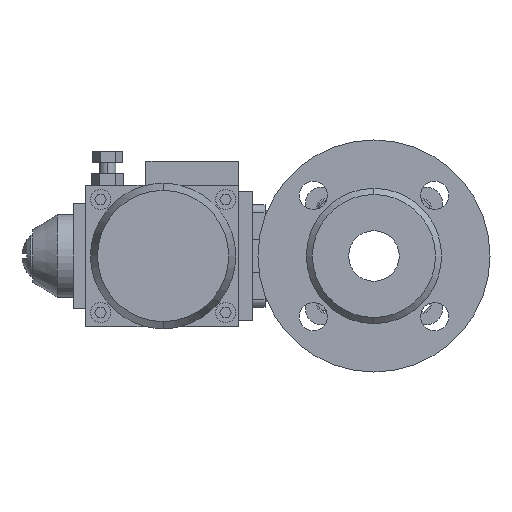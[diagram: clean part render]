
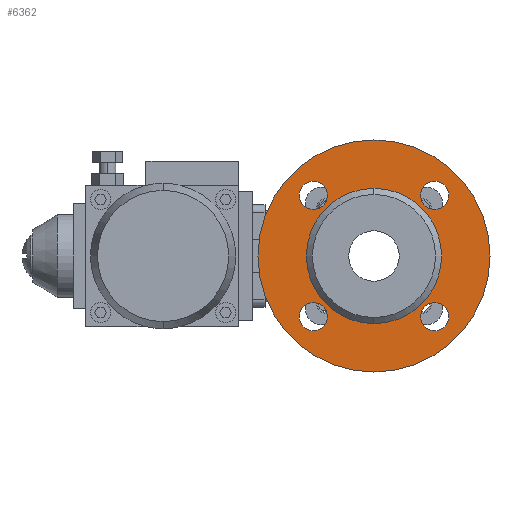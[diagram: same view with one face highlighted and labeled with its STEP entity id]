
A CAD part, left-side view. The second image highlights one B-rep face of the part: STEP entity #6362.
In plain terms, the highlighted planar face has unit normal (-1, 0, 0).
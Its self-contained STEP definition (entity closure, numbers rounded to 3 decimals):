
#1664=CARTESIAN_POINT('',(-50.,0.,0.));
#1665=DIRECTION('',(-1.,0.,0.));
#1666=DIRECTION('',(0.,0.,1.));
#1667=AXIS2_PLACEMENT_3D('',#1664,#1665,#1666);
#1669=CARTESIAN_POINT('',(-50.,0.,0.));
#1670=DIRECTION('',(-1.,0.,0.));
#1671=DIRECTION('',(0.,0.,-1.));
#1672=AXIS2_PLACEMENT_3D('',#1669,#1670,#1671);
#1674=CARTESIAN_POINT('',(-50.,0.,0.));
#1675=DIRECTION('',(-1.,0.,0.));
#1676=DIRECTION('',(0.,0.,1.));
#1677=AXIS2_PLACEMENT_3D('',#1674,#1675,#1676);
#1679=CARTESIAN_POINT('',(-50.,0.,0.));
#1680=DIRECTION('',(-1.,0.,0.));
#1681=DIRECTION('',(0.,0.,-1.));
#1682=AXIS2_PLACEMENT_3D('',#1679,#1680,#1681);
#1684=CARTESIAN_POINT('',(-50.,30.052,-30.052));
#1685=DIRECTION('',(-1.,0.,0.));
#1686=DIRECTION('',(0.,0.,1.));
#1687=AXIS2_PLACEMENT_3D('',#1684,#1685,#1686);
#1689=CARTESIAN_POINT('',(-50.,30.052,-30.052));
#1690=DIRECTION('',(-1.,0.,0.));
#1691=DIRECTION('',(0.,0.,-1.));
#1692=AXIS2_PLACEMENT_3D('',#1689,#1690,#1691);
#1694=CARTESIAN_POINT('',(-50.,-30.052,-30.052));
#1695=DIRECTION('',(-1.,0.,0.));
#1696=DIRECTION('',(0.,1.,0.));
#1697=AXIS2_PLACEMENT_3D('',#1694,#1695,#1696);
#1699=CARTESIAN_POINT('',(-50.,-30.052,-30.052));
#1700=DIRECTION('',(-1.,0.,0.));
#1701=DIRECTION('',(0.,-1.,0.));
#1702=AXIS2_PLACEMENT_3D('',#1699,#1700,#1701);
#1704=CARTESIAN_POINT('',(-50.,-30.052,30.052));
#1705=DIRECTION('',(-1.,0.,0.));
#1706=DIRECTION('',(0.,0.,-1.));
#1707=AXIS2_PLACEMENT_3D('',#1704,#1705,#1706);
#1709=CARTESIAN_POINT('',(-50.,-30.052,30.052));
#1710=DIRECTION('',(-1.,0.,0.));
#1711=DIRECTION('',(0.,0.,1.));
#1712=AXIS2_PLACEMENT_3D('',#1709,#1710,#1711);
#1714=CARTESIAN_POINT('',(-50.,30.052,30.052));
#1715=DIRECTION('',(-1.,0.,0.));
#1716=DIRECTION('',(0.,-1.,0.));
#1717=AXIS2_PLACEMENT_3D('',#1714,#1715,#1716);
#1719=CARTESIAN_POINT('',(-50.,30.052,30.052));
#1720=DIRECTION('',(-1.,0.,0.));
#1721=DIRECTION('',(0.,1.,0.));
#1722=AXIS2_PLACEMENT_3D('',#1719,#1720,#1721);
#3276=CARTESIAN_POINT('',(-50.,0.,57.5));
#3277=CARTESIAN_POINT('',(-50.,0.,-57.5));
#3278=VERTEX_POINT('',#3276);
#3279=VERTEX_POINT('',#3277);
#3288=CARTESIAN_POINT('',(-50.,0.,33.5));
#3289=CARTESIAN_POINT('',(-50.,0.,-33.5));
#3290=VERTEX_POINT('',#3288);
#3291=VERTEX_POINT('',#3289);
#3370=CARTESIAN_POINT('',(-50.,30.052,-23.052));
#3371=CARTESIAN_POINT('',(-50.,30.052,-37.052));
#3372=VERTEX_POINT('',#3370);
#3373=VERTEX_POINT('',#3371);
#3378=CARTESIAN_POINT('',(-50.,-23.052,-30.052));
#3379=CARTESIAN_POINT('',(-50.,-37.052,-30.052));
#3380=VERTEX_POINT('',#3378);
#3381=VERTEX_POINT('',#3379);
#3386=CARTESIAN_POINT('',(-50.,-30.052,23.052));
#3387=CARTESIAN_POINT('',(-50.,-30.052,37.052));
#3388=VERTEX_POINT('',#3386);
#3389=VERTEX_POINT('',#3387);
#3394=CARTESIAN_POINT('',(-50.,23.052,30.052));
#3395=CARTESIAN_POINT('',(-50.,37.052,30.052));
#3396=VERTEX_POINT('',#3394);
#3397=VERTEX_POINT('',#3395);
#6323=CARTESIAN_POINT('',(-50.,0.,0.));
#6324=DIRECTION('',(-1.,0.,0.));
#6325=DIRECTION('',(0.,0.,1.));
#6326=AXIS2_PLACEMENT_3D('',#6323,#6324,#6325);
#6327=PLANE('',#6326);
#6329=ORIENTED_EDGE('',*,*,#6328,.F.);
#6331=ORIENTED_EDGE('',*,*,#6330,.F.);
#6332=EDGE_LOOP('',(#6329,#6331));
#6333=FACE_OUTER_BOUND('',#6332,.F.);
#6334=ORIENTED_EDGE('',*,*,#6303,.T.);
#6335=ORIENTED_EDGE('',*,*,#6317,.T.);
#6336=EDGE_LOOP('',(#6334,#6335));
#6337=FACE_BOUND('',#6336,.F.);
#6339=ORIENTED_EDGE('',*,*,#6338,.T.);
#6341=ORIENTED_EDGE('',*,*,#6340,.T.);
#6342=EDGE_LOOP('',(#6339,#6341));
#6343=FACE_BOUND('',#6342,.F.);
#6345=ORIENTED_EDGE('',*,*,#6344,.T.);
#6347=ORIENTED_EDGE('',*,*,#6346,.T.);
#6348=EDGE_LOOP('',(#6345,#6347));
#6349=FACE_BOUND('',#6348,.F.);
#6351=ORIENTED_EDGE('',*,*,#6350,.T.);
#6353=ORIENTED_EDGE('',*,*,#6352,.T.);
#6354=EDGE_LOOP('',(#6351,#6353));
#6355=FACE_BOUND('',#6354,.F.);
#6357=ORIENTED_EDGE('',*,*,#6356,.T.);
#6359=ORIENTED_EDGE('',*,*,#6358,.T.);
#6360=EDGE_LOOP('',(#6357,#6359));
#6361=FACE_BOUND('',#6360,.F.);
#6362=ADVANCED_FACE('',(#6333,#6337,#6343,#6349,#6355,#6361),#6327,.T.);
#1668=CIRCLE('',#1667,57.5);
#1673=CIRCLE('',#1672,57.5);
#1678=CIRCLE('',#1677,33.5);
#1683=CIRCLE('',#1682,33.5);
#1688=CIRCLE('',#1687,7.);
#1693=CIRCLE('',#1692,7.);
#1698=CIRCLE('',#1697,7.);
#1703=CIRCLE('',#1702,7.);
#1708=CIRCLE('',#1707,7.);
#1713=CIRCLE('',#1712,7.);
#1718=CIRCLE('',#1717,7.);
#1723=CIRCLE('',#1722,7.);
#6303=EDGE_CURVE('',#3290,#3291,#1678,.T.);
#6317=EDGE_CURVE('',#3291,#3290,#1683,.T.);
#6328=EDGE_CURVE('',#3278,#3279,#1668,.T.);
#6330=EDGE_CURVE('',#3279,#3278,#1673,.T.);
#6338=EDGE_CURVE('',#3372,#3373,#1688,.T.);
#6340=EDGE_CURVE('',#3373,#3372,#1693,.T.);
#6344=EDGE_CURVE('',#3380,#3381,#1698,.T.);
#6346=EDGE_CURVE('',#3381,#3380,#1703,.T.);
#6350=EDGE_CURVE('',#3388,#3389,#1708,.T.);
#6352=EDGE_CURVE('',#3389,#3388,#1713,.T.);
#6356=EDGE_CURVE('',#3396,#3397,#1718,.T.);
#6358=EDGE_CURVE('',#3397,#3396,#1723,.T.);
